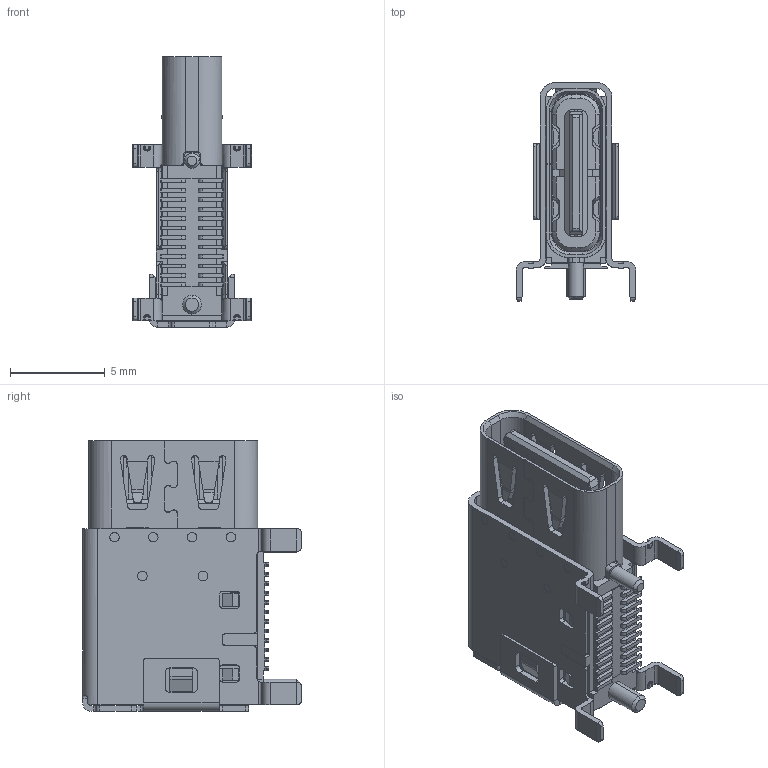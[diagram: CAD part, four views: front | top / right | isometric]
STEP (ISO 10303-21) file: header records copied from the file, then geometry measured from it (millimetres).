
FILE_DESCRIPTION((''),'2;1');
FILE_NAME('USB-TYPE-C-24PIN-CECHA-1201','2023-02-09T14:45:08',('Administrator'),(''),'CREO PARAMETRIC BY PTC INC, 2020033','CREO PARAMETRIC BY PTC INC, 2020033','');
FILE_SCHEMA(('CONFIG_CONTROL_DESIGN'));
Products named in the file (1): USB-TYPE-C-24PIN-CECHA-1201
Bounding box: 6.3 x 11.53 x 14.3 mm (x, y, z)
Volume: 362 mm3; surface area: 1339.2 mm2
Topology: 1 solids, 32 shells, 1932 faces, 5433 edges, 3551 vertices
Faces by surface type: plane 1366, cylinder 506, cone 26, bspline 18, torus 16
Entity records: 63254 total; most frequent: CARTESIAN_POINT 12522, ORIENTED_EDGE 10866, DIRECTION 10212, EDGE_CURVE 5433, VECTOR 4158, LINE 4158, VERTEX_POINT 3551, AXIS2_PLACEMENT_3D 3027
